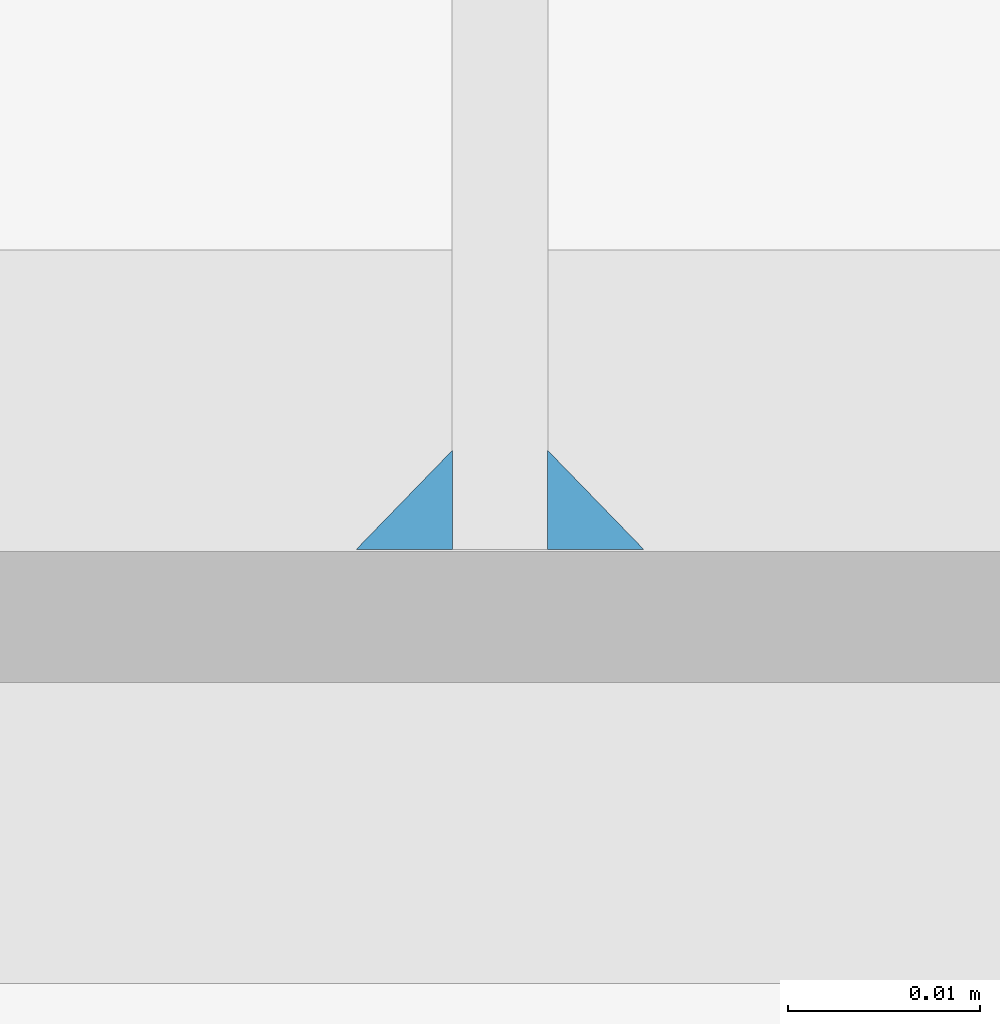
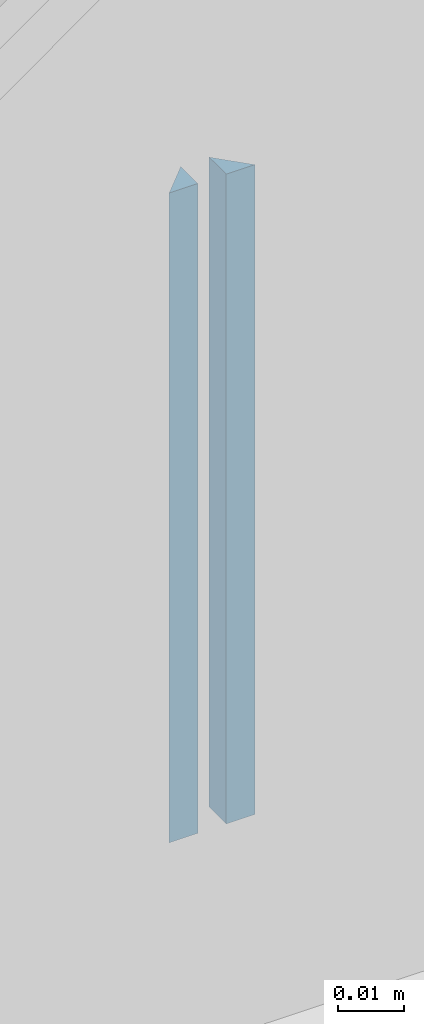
# One storey, part 11 of 29: 2 fasteners.
"""IFC4 building model written with IfcOpenShell, lengths in metres."""

from ifc_helpers import new_model, si_unit, frame, origin_with_axes, place, context, project, spatial, polyline, outline, extrude, type_object, element, save


model = new_model("IFC4")

# Units and contexts
model_context = context("Model", 3, precision=1e-05, world=origin_with_axes())
ifc_project = project(units=[si_unit("LENGTHUNIT", "METRE"), si_unit("AREAUNIT", "SQUARE_METRE"), si_unit("VOLUMEUNIT", "CUBIC_METRE"), si_unit("MASSUNIT", "GRAM", prefix="KILO"), si_unit("TIMEUNIT", "SECOND"), si_unit("PLANEANGLEUNIT", "RADIAN"), si_unit("SOLIDANGLEUNIT", "STERADIAN"), si_unit("THERMODYNAMICTEMPERATUREUNIT", "DEGREE_CELSIUS")], contexts=[model_context])

# Site, building, storey
placement_1 = place(None, origin_with_axes())
site = spatial("IfcSite", under=ifc_project, at=placement_1, Name="Italia", CompositionType="ELEMENT")
building = spatial("IfcBuilding", under=site, at=placement_1, Name="Capannone", CompositionType="ELEMENT")
storey = spatial("IfcBuildingStorey", under=building, at=placement_1, Name="Storey 0", CompositionType="ELEMENT", Elevation=0.0)

# Fasteners
fastener_type_1 = type_object("IfcFastenerType", Name="Collegamento 0010_0112", PredefinedType="WELD")
placement_2 = place(placement_1, origin_with_axes())
fastener_1_placement = place(placement_2, origin_with_axes())
element("IfcFastener", 1, at=fastener_1_placement, inside=storey, type_object=fastener_type_1, Name="Collegamento 0010_0112", context=model_context, shape_type="SweptSolid", body=[
    extrude(outline(polyline([(0.0, 0.0), (0.00517273, -0.00501728), (0.0, -0.00501728), (0.0, 0.0)])), frame((14.001, 12.0035, 0.199878), z_axis=(0.0, 0.0, -1.0), x_axis=(0.0, 1.0, 0.0)), (0.0, 0.0, 1.0), 0.1201),
])
fastener_type_2 = type_object("IfcFastenerType", Name="Collegamento 0010_0112", PredefinedType="WELD")
fastener_2_placement = place(placement_2, origin_with_axes())
element("IfcFastener", 2, at=fastener_2_placement, inside=storey, type_object=fastener_type_2, Name="Collegamento 0010_0112", context=model_context, shape_type="SweptSolid", body=[
    extrude(outline(polyline([(0.0, 0.0), (0.00517273, -0.00501728), (0.0, -0.00501728), (0.0, 0.0)])), frame((13.986, 12.0035, 0.0797776), z_axis=(0.0, 0.0, 1.0), x_axis=(0.0, 1.0, 0.0)), (0.0, 0.0, 1.0), 0.1201),
])

save(model, "model.ifc")
